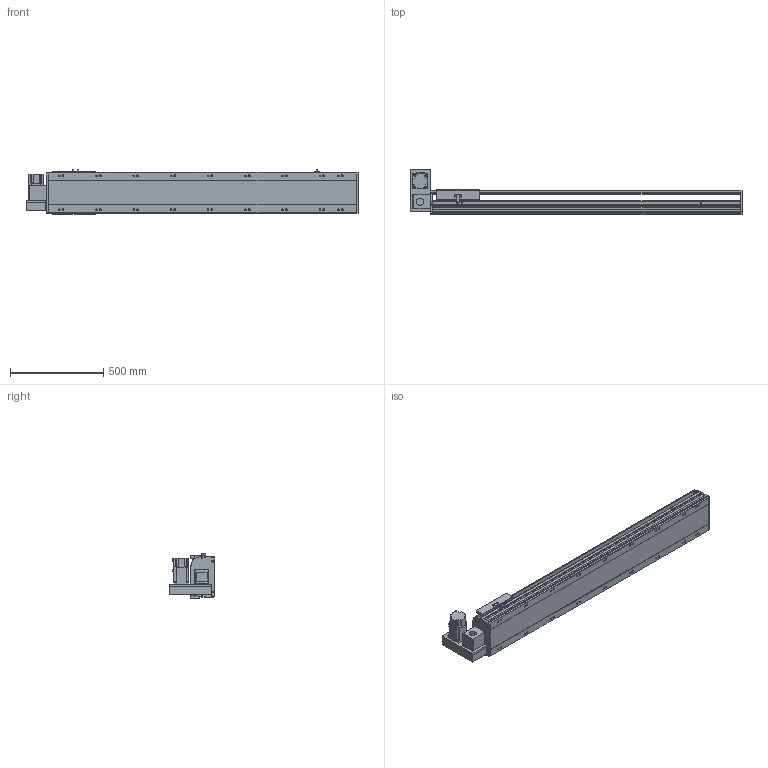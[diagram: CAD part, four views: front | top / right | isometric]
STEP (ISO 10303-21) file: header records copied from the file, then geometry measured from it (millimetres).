
FILE_DESCRIPTION(/* description */ ('STEP AP214'),/* implementation_level */ '2;1');
FILE_NAME(/* name */ 'PBS220-P40-S1300-LU-T75-C1-N(0)',/* time_stamp */ '2022-06-13T02:30:04+02:00',/* author */ ('License CC BY-ND 4.0'),/* organization */ ('CADENAS'),/* preprocessor_version */ 'ST-DEVELOPER v18.102',/* originating_system */ 'PARTsolutions',/* authorisation */ ' ');
FILE_SCHEMA (('AUTOMOTIVE_DESIGN {1 0 10303 214 3 1 1}'));
Length unit declared in the file: millimetre
Products named in the file (7): PBS220-P40-S1300-LU-T75-C1-N(0); PBS220_sensor; PBS220_plant; PBS220_sliser; T75-p1; PBS220T-LU_motors; PBS220-S1300()_body
Assembly tree (8 placements, depth 2):
  PBS220-P40-S1300-LU-T75-C1-N(0)
    PBS220_sensor  x3
    PBS220_plant
    PBS220_sliser
    T75-p1
    PBS220T-LU_motors
    PBS220-S1300()_body
Bounding box: 1784 x 247 x 238.5 mm (x, y, z)
Volume: 25495714.9 mm3; surface area: 2444718 mm2
Topology: 8 solids, 8 shells, 926 faces, 2424 edges, 1576 vertices
Faces by surface type: plane 602, cylinder 282, cone 42
Full cylindrical faces by diameter (mm): 2.013 x4, 4.5 x14, 4.917 x4, 6 x7, 6.647 x8, 8 x10, 8.376 x18, 8.5 x18, 10 x6, 14 x18, 38 x2, 40 x1, 70 x1
Entity records: 25941 total; most frequent: CARTESIAN_POINT 4558, DIRECTION 4509, ORIENTED_EDGE 4142, EDGE_CURVE 2071, AXIS2_PLACEMENT_3D 1581, VERTEX_POINT 1432, LINE 1347, VECTOR 1347
